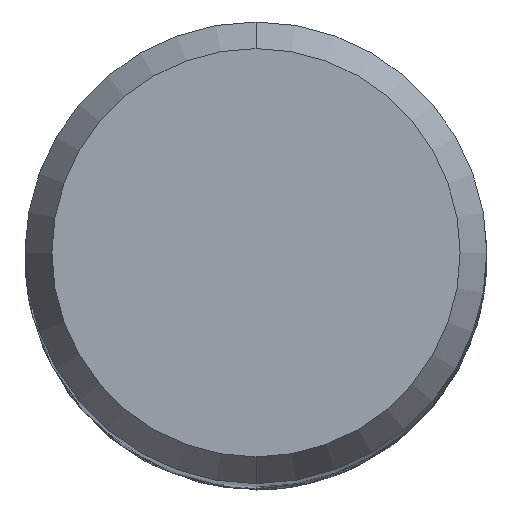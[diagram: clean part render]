
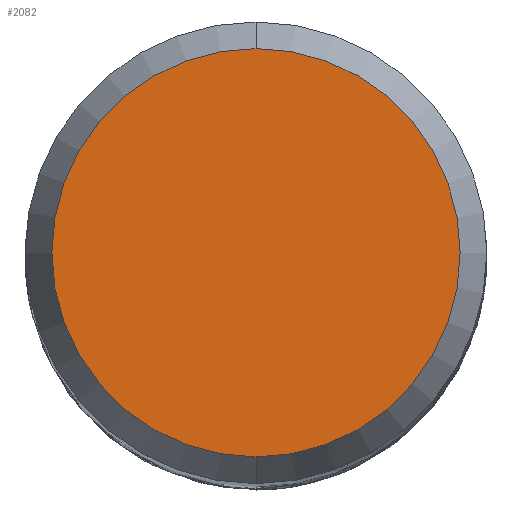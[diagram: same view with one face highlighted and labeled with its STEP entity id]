
A CAD part, top view. The second image highlights one B-rep face of the part: STEP entity #2082.
In plain terms, the highlighted planar face has unit normal (0, 0, 1).
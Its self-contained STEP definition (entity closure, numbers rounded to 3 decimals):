
#780=VERTEX_POINT('',#2229);
#998=VERTEX_POINT('',#2468);
#1378=EDGE_CURVE('',#780,#998,#2876,.T.);
#1902=EDGE_CURVE('',#998,#780,#3445,.T.);
#2082=ADVANCED_FACE('',(#3643),#3644,.T.);
#2229=CARTESIAN_POINT('',(0.0,4.423,0.0));
#2468=CARTESIAN_POINT('',(0.,-4.423,0.0));
#2876=CIRCLE('',#12602,4.423);
#3445=CIRCLE('',#18965,4.423);
#3643=FACE_OUTER_BOUND('',#21256,.T.);
#3644=PLANE('',#21257);
#12602=AXIS2_PLACEMENT_3D('',#22988,#22989,#22990);
#18965=AXIS2_PLACEMENT_3D('',#23582,#23583,#23584);
#21256=EDGE_LOOP('',(#23777,#23778));
#21257=AXIS2_PLACEMENT_3D('',#23779,#23780,#23781);
#22988=CARTESIAN_POINT('',(0.0,0.0,0.0));
#22989=DIRECTION('',(0.0,0.0,-1.0));
#22990=DIRECTION('',(0.0,1.0,0.0));
#23582=CARTESIAN_POINT('',(0.0,0.0,0.0));
#23583=DIRECTION('',(0.0,0.0,-1.0));
#23584=DIRECTION('',(0.0,1.0,0.0));
#23777=ORIENTED_EDGE('',*,*,#1378,.F.);
#23778=ORIENTED_EDGE('',*,*,#1902,.F.);
#23779=CARTESIAN_POINT('',(0.0,2.211,0.0));
#23780=DIRECTION('',(-0.0,0.0,1.0));
#23781=DIRECTION('',(0.0,-1.0,0.0));
